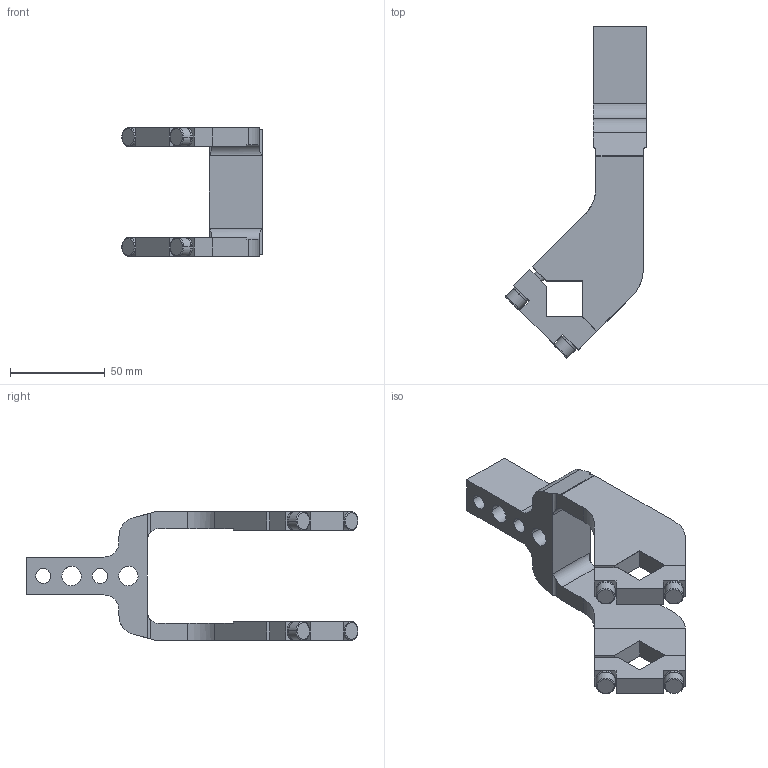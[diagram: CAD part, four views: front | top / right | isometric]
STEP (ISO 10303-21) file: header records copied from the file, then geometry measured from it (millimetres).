
FILE_DESCRIPTION(('CATIA V5 STEP Exchange'),'2;1');
FILE_NAME('E:\clampact\CLAMPACT\clampact\catalog\Clampact Arm\Arm 3D\Clampact Arm\arm_K50_15_A90_clampact.stp','2022-12-07T04:33:11+00:00',('none'),('none'),'CATIA Version 5 Release 19 SP 6 (IN-10)','CATIA V5 STEP AP203','none');
FILE_SCHEMA(('CONFIG_CONTROL_DESIGN'));
Length unit declared in the file: millimetre
Products named in the file (1): K50_15_A90_Clampact_ 柯莱普
Bounding box: 74.05 x 175.05 x 68 mm (x, y, z)
Volume: 117983.1 mm3; surface area: 36657.4 mm2
Topology: 1 solids, 5 shells, 172 faces, 444 edges, 282 vertices
Faces by surface type: plane 84, cylinder 56, cone 20, torus 12
Entity records: 5877 total; most frequent: CARTESIAN_POINT 1846, ORIENTED_EDGE 872, DIRECTION 696, EDGE_CURVE 436, VERTEX_POINT 282, AXIS2_PLACEMENT_3D 267, VECTOR 258, LINE 258
